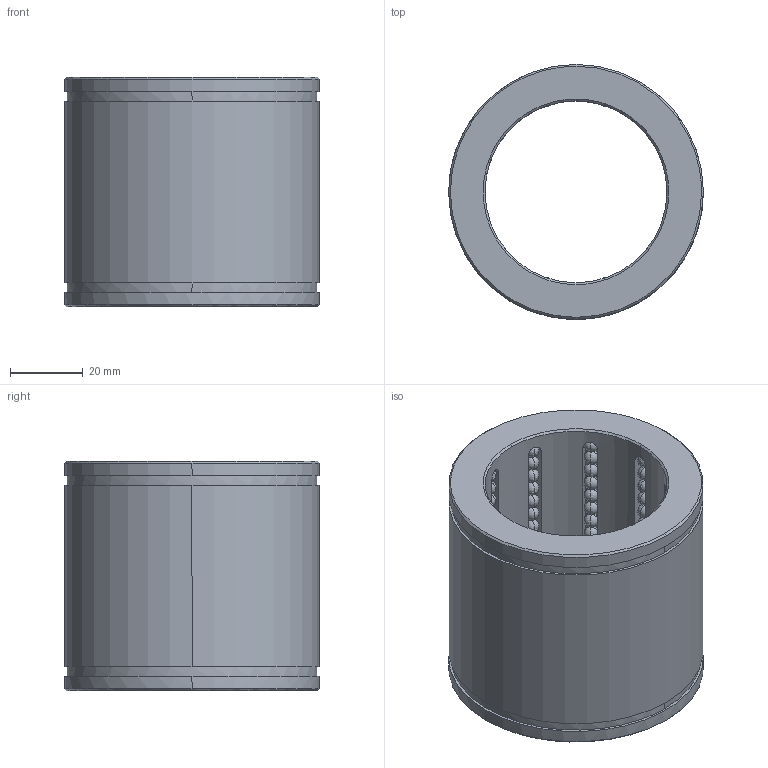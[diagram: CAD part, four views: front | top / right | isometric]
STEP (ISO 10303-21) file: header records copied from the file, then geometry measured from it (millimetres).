
FILE_DESCRIPTION(('CATIA V5 STEP Exchange'),'2;1');
FILE_NAME('C:\Users\Raffaele\Desktop\3D BOLEX\3D FILES CF BOLEX\3-BUSH REF 803\B8035063.stp','2019-06-19T14:05:22+00:00',('none'),('none'),'CATIA Version 5 Release 20 GA (IN-10)','CATIA V5 STEP AP203','none');
FILE_SCHEMA(('CONFIG_CONTROL_DESIGN'));
Length unit declared in the file: millimetre
Products named in the file (1): B8035063
Bounding box: 70 x 70 x 63 mm (x, y, z)
Volume: 113827.2 mm3; surface area: 38916 mm2
Topology: 131 solids, 131 shells, 604 faces, 1762 edges, 392 vertices
Faces by surface type: sphere 520, plane 36, cylinder 32, cone 16
Entity records: 11524 total; most frequent: CARTESIAN_POINT 2329, DIRECTION 1883, ORIENTED_EDGE 1444, AXIS2_PLACEMENT_3D 1170, EDGE_CURVE 722, EDGE_LOOP 618, ADVANCED_FACE 604, FACE_OUTER_BOUND 604
